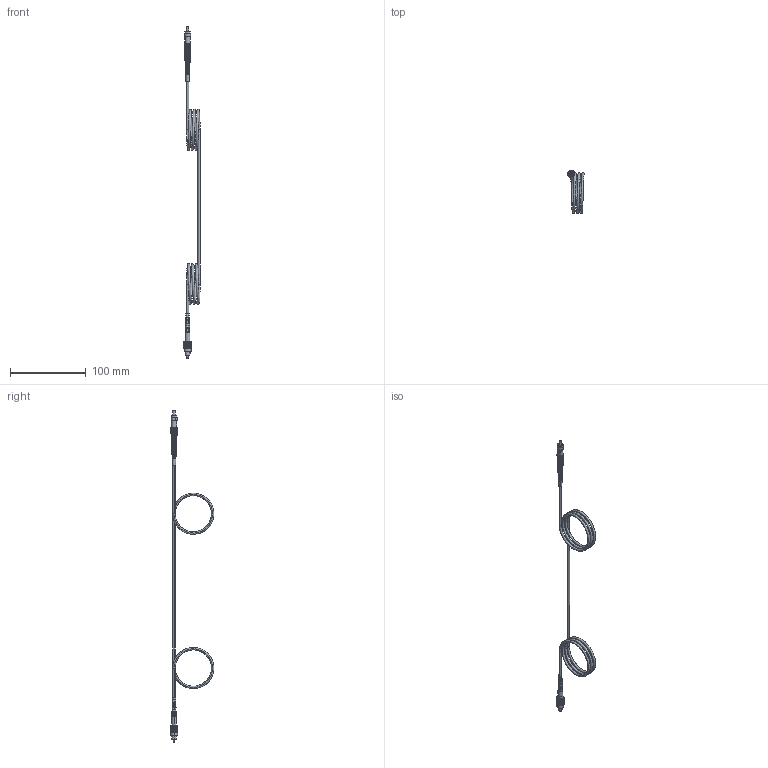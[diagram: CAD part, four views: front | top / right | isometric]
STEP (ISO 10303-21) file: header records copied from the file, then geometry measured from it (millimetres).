
FILE_DESCRIPTION (( 'STEP AP203' ), '1' );
FILE_NAME ('TTN142616-E0W.STEP', '2018-04-16T15:08:32', ( 'admin' ), ( '' ), 'SwSTEP 2.0', 'SolidWorks 2016', '' );
FILE_SCHEMA (( 'CONFIG_CONTROL_DESIGN' ));
Length unit declared in the file: inch
Products named in the file (1): TTN142616-E0W
Bounding box: 21.74 x 57.3 x 437.23 mm (x, y, z)
Volume: 12226.1 mm3; surface area: 18537.7 mm2
Topology: 9 solids, 9 shells, 822 faces, 2126 edges, 1404 vertices
Faces by surface type: plane 556, cylinder 158, cone 104, bspline 4
Entity records: 28273 total; most frequent: CARTESIAN_POINT 7917, ORIENTED_EDGE 4252, DIRECTION 4188, EDGE_CURVE 2126, AXIS2_PLACEMENT_3D 1579, VERTEX_POINT 1404, VECTOR 1030, LINE 1030
